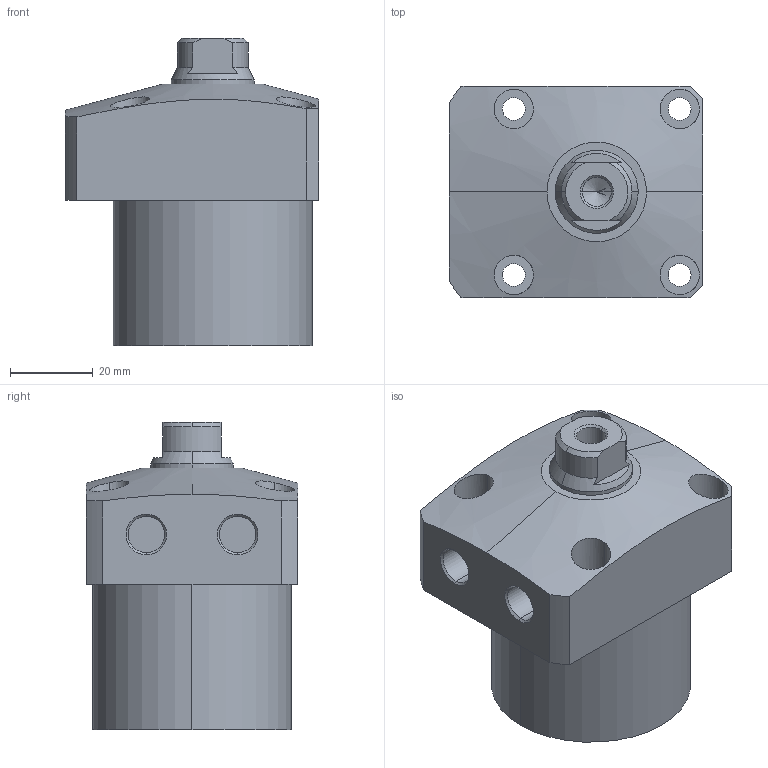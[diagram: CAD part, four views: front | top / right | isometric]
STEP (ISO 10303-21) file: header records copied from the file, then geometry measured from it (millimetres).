
FILE_DESCRIPTION (( 'STEP AP203' ), '1' );
FILE_NAME ('CLL-0480-CA-25.STEP', '2017-05-09T02:15:04', ( '' ), ( '' ), 'SwSTEP 2.0', 'SolidWorks 2015', '' );
FILE_SCHEMA (( 'CONFIG_CONTROL_DESIGN' ));
Length unit declared in the file: millimetre
Products named in the file (1): CLL-0480-CA-25
Bounding box: 61 x 51 x 74 mm (x, y, z)
Volume: 137939.3 mm3; surface area: 19842.7 mm2
Topology: 1 solids, 1 shells, 72 faces, 169 edges, 108 vertices
Faces by surface type: cylinder 35, plane 22, cone 15
Entity records: 2479 total; most frequent: CARTESIAN_POINT 714, DIRECTION 366, ORIENTED_EDGE 334, EDGE_CURVE 167, AXIS2_PLACEMENT_3D 150, VERTEX_POINT 108, EDGE_LOOP 91, CIRCLE 77
